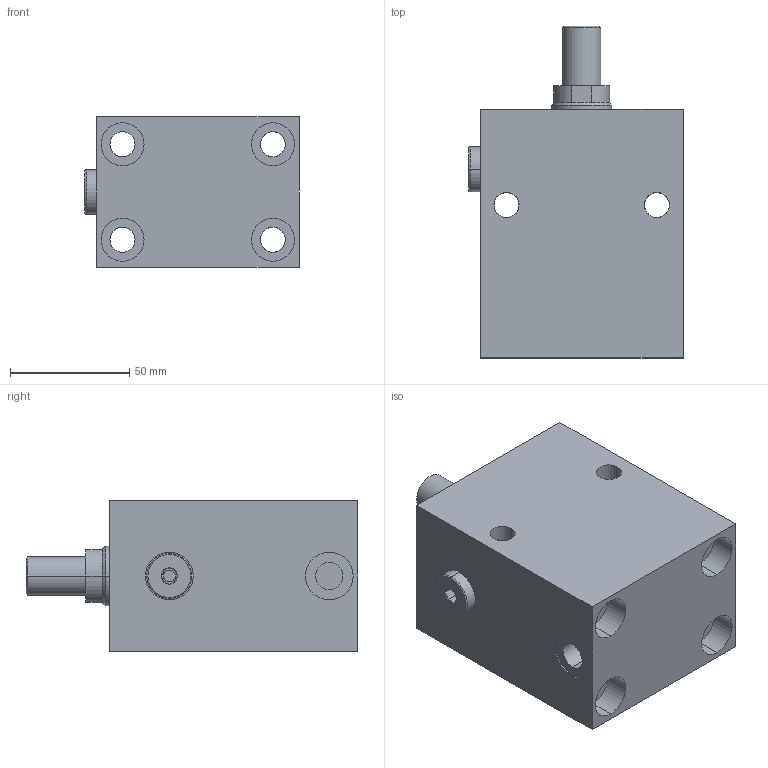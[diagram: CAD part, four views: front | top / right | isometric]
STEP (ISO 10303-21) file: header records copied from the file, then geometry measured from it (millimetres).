
FILE_DESCRIPTION (( 'STEP AP203' ), '1' );
FILE_NAME ('GERMA_Blockzylinder_650-040-020-A.STEP', '2023-08-26T15:41:50', ( '' ), ( '' ), 'SwSTEP 2.0', 'SolidWorks 2016', '' );
FILE_SCHEMA (( 'CONFIG_CONTROL_DESIGN' ));
Length unit declared in the file: millimetre
Products named in the file (3): Kolben 60x-040_Kolben DU.40-Hub50-AG; GERMA_Blockzylinder_650-040-020-A; GH-600-040-ew_GH-650-040-020
Assembly tree (2 placements, depth 2):
  GERMA_Blockzylinder_650-040-020-A
    GH-600-040-ew_GH-650-040-020
    Kolben 60x-040_Kolben DU.40-Hub50-AG
Bounding box: 89.8 x 139 x 63 mm (x, y, z)
Volume: 489182.4 mm3; surface area: 83057.9 mm2
Topology: 2 solids, 2 shells, 135 faces, 313 edges, 193 vertices
Faces by surface type: cylinder 75, plane 39, cone 19, torus 2
Entity records: 4205 total; most frequent: CARTESIAN_POINT 801, DIRECTION 690, ORIENTED_EDGE 618, EDGE_CURVE 309, AXIS2_PLACEMENT_3D 280, VERTEX_POINT 193, EDGE_LOOP 170, CIRCLE 140
